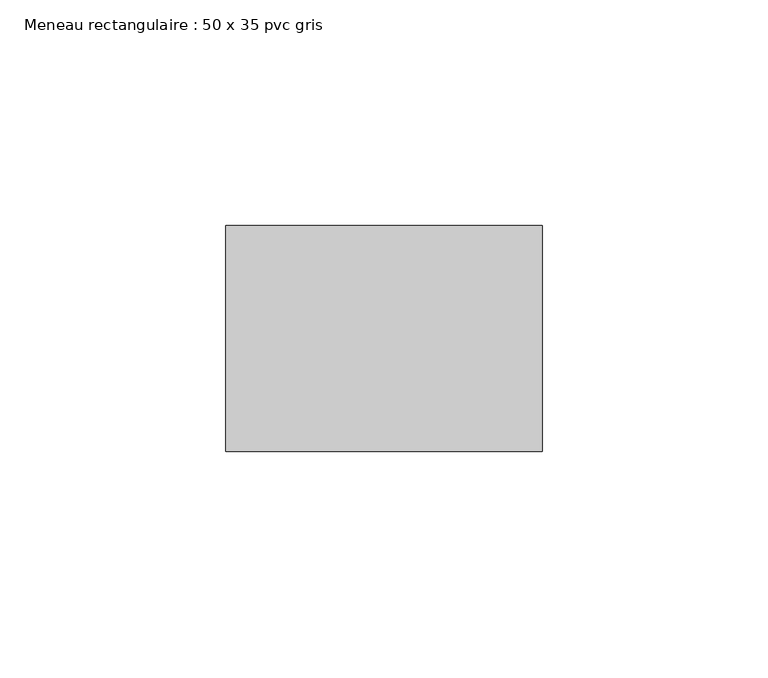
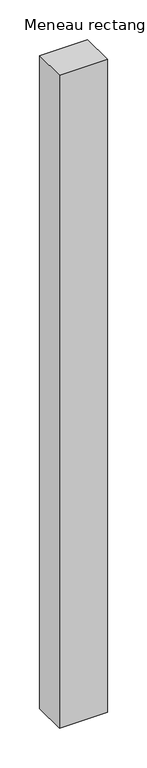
"""IFC4 building model written with IfcOpenShell, lengths in millimetres: member geometry, Meneau rectangulaire : 50 x 35 pvc gris."""

from ifc_helpers import new_model, si_unit, frame, origin, place, context, project, spatial, polyline, outline, extrude, source, transform, mapped, element, save


def meneau_rectangulaire_50_x_35_pvc_gris_ed86f338(model_context):
    return source(origin(), model_context, "Body", "SweptSolid", [
        extrude(outline(polyline([(0.0, 0.0), (0.0, -50.0), (-70.0, -50.0), (-70.0, 0.0), (0.0, 0.0)])), frame((0.0, 0.0, -1004.0), z_axis=(0.0, 0.0, 1.0), x_axis=(1.0, 0.0, 0.0)), (0.0, 0.0, 1.0), 1004.0),
    ])


if __name__ == "__main__":
    model = new_model("IFC4")
    model_context = context("Model", 3, world=origin())
    ifc_project = project(units=[si_unit("LENGTHUNIT", "METRE", prefix="MILLI")], contexts=[model_context])
    site = spatial("IfcSite", under=ifc_project)
    building = spatial("IfcBuilding", under=site)
    placement = place(None, origin())
    meneau_rectangulaire_50_x_35_pvc_gris_shape = meneau_rectangulaire_50_x_35_pvc_gris_ed86f338(model_context)
    element("IfcMember", 1, ObjectType="Meneau rectangulaire : 50 x 35 pvc gris", at=placement, inside=building, context=model_context, shape_type="MappedRepresentation", body=[
        mapped(meneau_rectangulaire_50_x_35_pvc_gris_shape, transform((0.0, 0.0, 0.0), x_axis=(1.0, 0.0, 0.0), y_axis=(0.0, 1.0, 0.0), z_axis=(0.0, 0.0, 1.0))),
    ])
    save(model, "model.ifc")
